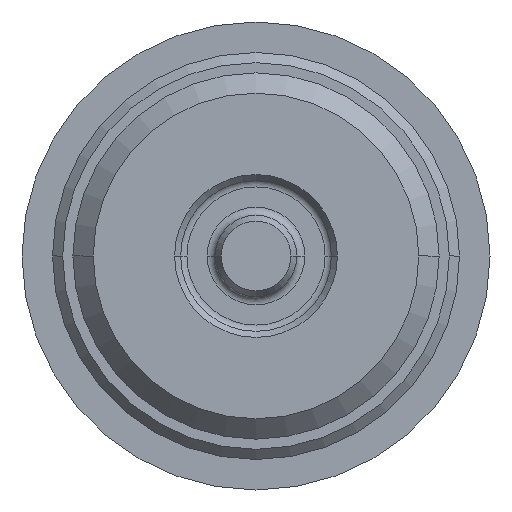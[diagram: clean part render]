
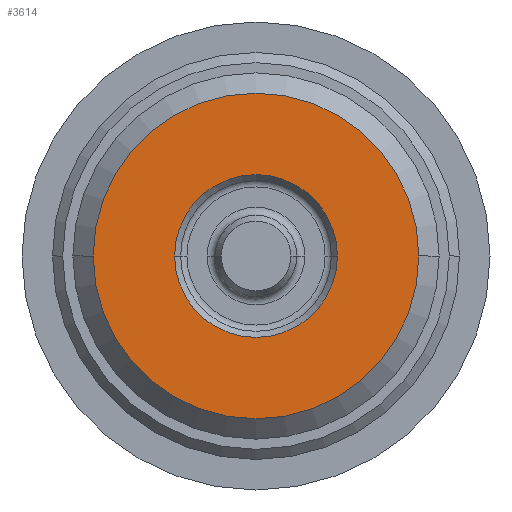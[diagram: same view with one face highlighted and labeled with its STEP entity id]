
A CAD part, left-side view. The second image highlights one B-rep face of the part: STEP entity #3614.
In plain terms, the highlighted planar face has unit normal (-1, 0, 0).
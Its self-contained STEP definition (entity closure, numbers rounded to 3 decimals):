
#288 = CIRCLE ( 'NONE', #3445, 8. ) ;
#516 = CARTESIAN_POINT ( 'NONE',  ( 16., 0., 0. ) ) ;
#534 = DIRECTION ( 'NONE',  ( 0., -1., 0. ) ) ;
#543 = VERTEX_POINT ( 'NONE', #3737 ) ;
#565 = FACE_OUTER_BOUND ( 'NONE', #2965, .T. ) ;
#703 = AXIS2_PLACEMENT_3D ( 'NONE', #2337, #3596, #2704 ) ;
#900 = EDGE_CURVE ( 'NONE', #543, #2083, #2913, .T. ) ;
#1097 = PLANE ( 'NONE',  #703 ) ;
#1150 = AXIS2_PLACEMENT_3D ( 'NONE', #2073, #2147, #534 ) ;
#1170 = DIRECTION ( 'NONE',  ( 0., 1., 0. ) ) ;
#1190 = DIRECTION ( 'NONE',  ( 0., 1., 0. ) ) ;
#1316 = CARTESIAN_POINT ( 'NONE',  ( 16., -8., 0. ) ) ;
#1512 = CARTESIAN_POINT ( 'NONE',  ( 16., 4., 0. ) ) ;
#1650 = CARTESIAN_POINT ( 'NONE',  ( 16., 0., 0. ) ) ;
#1694 = AXIS2_PLACEMENT_3D ( 'NONE', #1650, #3273, #1986 ) ;
#1768 = DIRECTION ( 'NONE',  ( -1., 0., 0. ) ) ;
#1986 = DIRECTION ( 'NONE',  ( 0., -1., 0. ) ) ;
#2073 = CARTESIAN_POINT ( 'NONE',  ( 16., 0., 0. ) ) ;
#2083 = VERTEX_POINT ( 'NONE', #1512 ) ;
#2094 = DIRECTION ( 'NONE',  ( -1., 0., 0. ) ) ;
#2147 = DIRECTION ( 'NONE',  ( -1., 0., 0. ) ) ;
#2276 = EDGE_CURVE ( 'NONE', #3605, #3856, #288, .T. ) ;
#2337 = CARTESIAN_POINT ( 'NONE',  ( 16., 4., 0. ) ) ;
#2449 = CIRCLE ( 'NONE', #3773, 8. ) ;
#2704 = DIRECTION ( 'NONE',  ( 0., 1., 0. ) ) ;
#2726 = CARTESIAN_POINT ( 'NONE',  ( 16., 0., 0. ) ) ;
#2771 = ORIENTED_EDGE ( 'NONE', *, *, #3661, .F. ) ;
#2913 = CIRCLE ( 'NONE', #1150, 4. ) ;
#2919 = EDGE_LOOP ( 'NONE', ( #3440, #2771 ) ) ;
#2931 = EDGE_CURVE ( 'NONE', #3856, #3605, #2449, .T. ) ;
#2939 = FACE_BOUND ( 'NONE', #2919, .T. ) ;
#2965 = EDGE_LOOP ( 'NONE', ( #3741, #3286 ) ) ;
#2976 = CARTESIAN_POINT ( 'NONE',  ( 16., 8., 0. ) ) ;
#3060 = CIRCLE ( 'NONE', #1694, 4. ) ;
#3273 = DIRECTION ( 'NONE',  ( -1., 0., 0. ) ) ;
#3286 = ORIENTED_EDGE ( 'NONE', *, *, #2931, .T. ) ;
#3440 = ORIENTED_EDGE ( 'NONE', *, *, #900, .F. ) ;
#3445 = AXIS2_PLACEMENT_3D ( 'NONE', #2726, #2094, #1170 ) ;
#3596 = DIRECTION ( 'NONE',  ( 1., 0., 0. ) ) ;
#3605 = VERTEX_POINT ( 'NONE', #2976 ) ;
#3614 = ADVANCED_FACE ( 'NONE', ( #565, #2939 ), #1097, .F. ) ;
#3661 = EDGE_CURVE ( 'NONE', #2083, #543, #3060, .T. ) ;
#3737 = CARTESIAN_POINT ( 'NONE',  ( 16., -4., 0. ) ) ;
#3741 = ORIENTED_EDGE ( 'NONE', *, *, #2276, .T. ) ;
#3773 = AXIS2_PLACEMENT_3D ( 'NONE', #516, #1768, #1190 ) ;
#3856 = VERTEX_POINT ( 'NONE', #1316 ) ;
